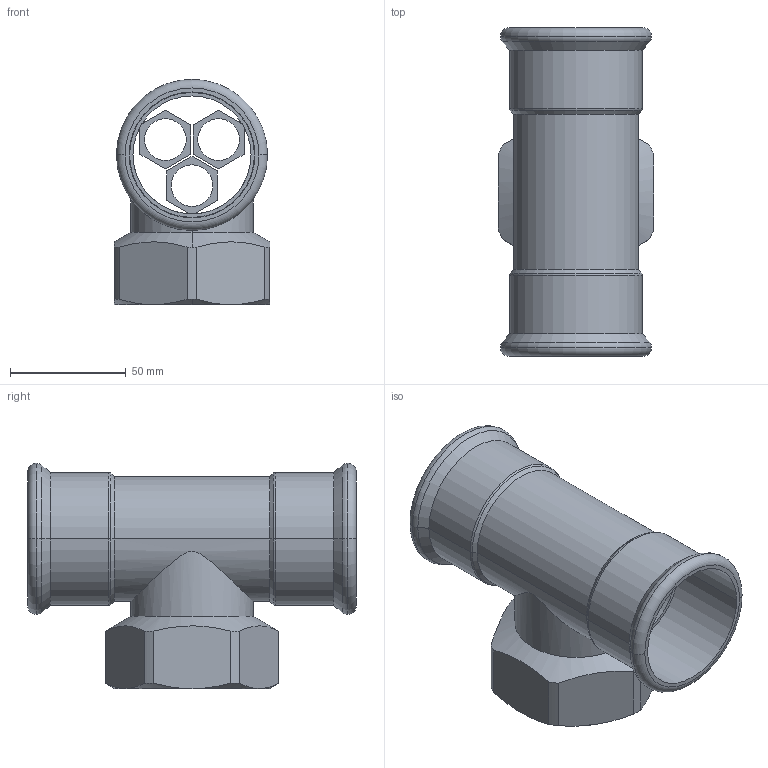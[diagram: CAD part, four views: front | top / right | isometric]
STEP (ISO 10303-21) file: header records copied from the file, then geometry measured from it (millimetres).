
FILE_DESCRIPTION(('OneSpaceDesigner STEP Export'),'2;1');
FILE_NAME('R2718 54xRp2x54.stp','2010-06-10T10:09:33',(''),(''),'OneSpace Designer STEP processor for AP214 (Solid Model)','OneSpace Modeling 15.00A 14-Mar-2007 (C) CoCreate Software GmbH','');
FILE_SCHEMA(('AUTOMOTIVE_DESIGN { 1 0 10303 214 1 1 1 1 }'));
Length unit declared in the file: millimetre
Products named in the file (2): R2718_54xRp2x54
Assembly tree (1 placements, depth 2):
  R2718_54xRp2x54
    R2718_54xRp2x54
Bounding box: 67 x 142 x 97.35 mm (x, y, z)
Volume: 89791.8 mm3; surface area: 74865.9 mm2
Topology: 1 solids, 1 shells, 153 faces, 376 edges, 238 vertices
Faces by surface type: plane 68, cylinder 49, cone 24, torus 12
Entity records: 6661 total; most frequent: CARTESIAN_POINT 3355, ORIENTED_EDGE 752, DIRECTION 568, EDGE_CURVE 376, VERTEX_POINT 238, VECTOR 204, LINE 204, AXIS2_PLACEMENT_3D 182
